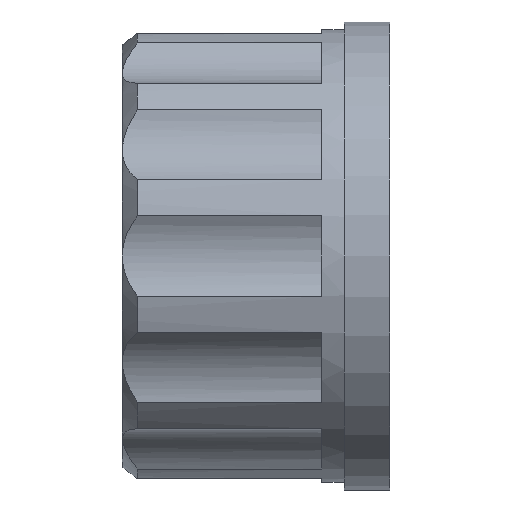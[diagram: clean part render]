
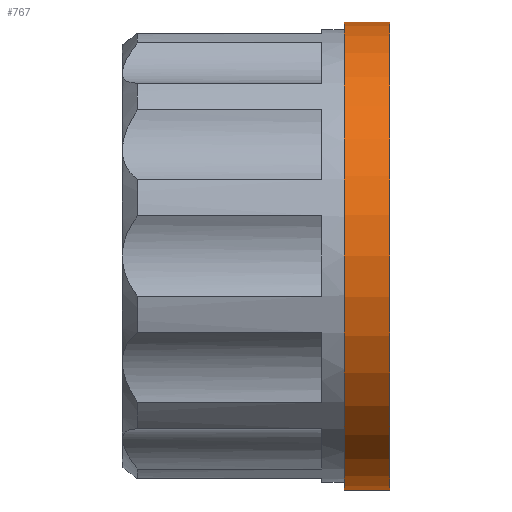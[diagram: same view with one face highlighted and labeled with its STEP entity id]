
A CAD part, front view. The second image highlights one B-rep face of the part: STEP entity #767.
In plain terms, the highlighted cylindrical face has radius 15.5 mm (diameter 31 mm), a partial arc.
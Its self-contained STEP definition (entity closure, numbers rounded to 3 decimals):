
#75 = AXIS2_PLACEMENT_3D ( 'NONE', #5316, #5307, #5320 ) ;
#339 = EDGE_CURVE ( 'NONE', #3016, #3013, #3721, .T. ) ;
#341 = EDGE_CURVE ( 'NONE', #3036, #3014, #3724, .T. ) ;
#459 = AXIS2_PLACEMENT_3D ( 'NONE', #5578, #5581, #5583 ) ;
#467 = AXIS2_PLACEMENT_3D ( 'NONE', #5934, #5938, #5944 ) ;
#579 = EDGE_CURVE ( 'NONE', #3013, #3014, #3989, .T. ) ;
#607 = EDGE_CURVE ( 'NONE', #3016, #3036, #3995, .T. ) ;
#767 = ADVANCED_FACE ( 'NONE', ( #4303 ), #4161, .T. ) ;
#1871 = ORIENTED_EDGE ( 'NONE', *, *, #607, .T. ) ;
#1900 = ORIENTED_EDGE ( 'NONE', *, *, #339, .F. ) ;
#1978 = ORIENTED_EDGE ( 'NONE', *, *, #341, .T. ) ;
#2100 = ORIENTED_EDGE ( 'NONE', *, *, #579, .F. ) ;
#2270 = DIRECTION ( 'NONE',  ( -1., 0., 0. ) ) ;
#2275 = DIRECTION ( 'NONE',  ( -1., 0., 0. ) ) ;
#2276 = CARTESIAN_POINT ( 'NONE',  ( -42.941, 0., -15.5 ) ) ;
#2282 = CARTESIAN_POINT ( 'NONE',  ( -42.941, 0., 15.5 ) ) ;
#3013 = VERTEX_POINT ( 'NONE', #4698 ) ;
#3014 = VERTEX_POINT ( 'NONE', #4697 ) ;
#3016 = VERTEX_POINT ( 'NONE', #4694 ) ;
#3036 = VERTEX_POINT ( 'NONE', #4662 ) ;
#3202 = EDGE_LOOP ( 'NONE', ( #1900, #1871, #1978, #2100 ) ) ;
#3721 = LINE ( 'NONE', #2276, #3726 ) ;
#3724 = LINE ( 'NONE', #2282, #3729 ) ;
#3726 = VECTOR ( 'NONE', #2270, 1000. ) ;
#3729 = VECTOR ( 'NONE', #2275, 1000. ) ;
#3989 = CIRCLE ( 'NONE', #459, 15.5 ) ;
#3995 = CIRCLE ( 'NONE', #467, 15.5 ) ;
#4161 = CYLINDRICAL_SURFACE ( 'NONE', #75, 15.5 ) ;
#4303 = FACE_OUTER_BOUND ( 'NONE', #3202, .T. ) ;
#4662 = CARTESIAN_POINT ( 'NONE',  ( 0., 0., 15.5 ) ) ;
#4694 = CARTESIAN_POINT ( 'NONE',  ( 0., 0., -15.5 ) ) ;
#4697 = CARTESIAN_POINT ( 'NONE',  ( -3., 0., 15.5 ) ) ;
#4698 = CARTESIAN_POINT ( 'NONE',  ( -3., 0., -15.5 ) ) ;
#5307 = DIRECTION ( 'NONE',  ( -1., 0., 0. ) ) ;
#5316 = CARTESIAN_POINT ( 'NONE',  ( -42.941, 0., 0. ) ) ;
#5320 = DIRECTION ( 'NONE',  ( 0., 0., 1. ) ) ;
#5578 = CARTESIAN_POINT ( 'NONE',  ( -3., 0., 0. ) ) ;
#5581 = DIRECTION ( 'NONE',  ( -1., 0., 0. ) ) ;
#5583 = DIRECTION ( 'NONE',  ( 0., 0., 1. ) ) ;
#5934 = CARTESIAN_POINT ( 'NONE',  ( 0., 0., 0. ) ) ;
#5938 = DIRECTION ( 'NONE',  ( -1., 0., 0. ) ) ;
#5944 = DIRECTION ( 'NONE',  ( 0., 0., 1. ) ) ;
